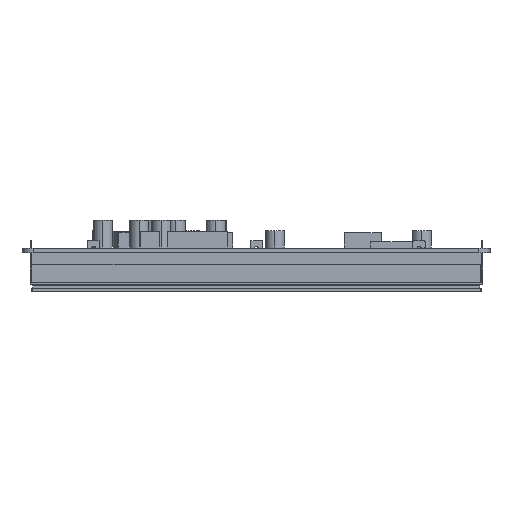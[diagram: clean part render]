
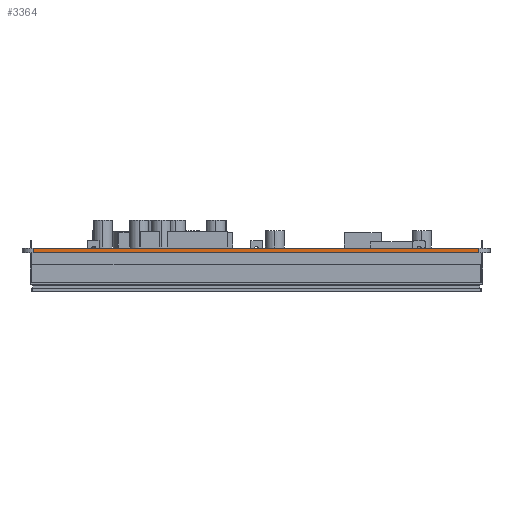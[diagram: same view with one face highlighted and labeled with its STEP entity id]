
A CAD part, left-side view. The second image highlights one B-rep face of the part: STEP entity #3364.
In plain terms, the highlighted planar face has unit normal (-1, 0, 0).
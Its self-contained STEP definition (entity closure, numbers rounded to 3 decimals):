
#110=DIRECTION('',(0.,1.,0.));
#111=VECTOR('',#110,147.701);
#112=CARTESIAN_POINT('',(-0.11,3.834,0.));
#113=LINE('',#112,#111);
#751=DIRECTION('',(0.,1.,0.));
#752=VECTOR('',#751,147.701);
#753=CARTESIAN_POINT('',(-0.11,3.834,-1.6));
#754=LINE('',#753,#752);
#1082=DIRECTION('',(0.,0.,1.));
#1083=VECTOR('',#1082,1.6);
#1084=CARTESIAN_POINT('',(-0.11,151.535,-1.6));
#1085=LINE('',#1084,#1083);
#1086=DIRECTION('',(0.,0.,1.));
#1087=VECTOR('',#1086,1.6);
#1088=CARTESIAN_POINT('',(-0.11,3.834,-1.6));
#1089=LINE('',#1088,#1087);
#1974=CARTESIAN_POINT('',(-0.11,151.535,0.));
#1975=VERTEX_POINT('',#1974);
#1976=CARTESIAN_POINT('',(-0.11,3.834,0.));
#1977=VERTEX_POINT('',#1976);
#2142=CARTESIAN_POINT('',(-0.11,151.535,-1.6));
#2143=VERTEX_POINT('',#2142);
#2144=CARTESIAN_POINT('',(-0.11,3.834,-1.6));
#2145=VERTEX_POINT('',#2144);
#3352=CARTESIAN_POINT('',(-0.11,151.535,0.));
#3353=DIRECTION('',(-1.,0.,0.));
#3354=DIRECTION('',(0.,-1.,0.));
#3355=AXIS2_PLACEMENT_3D('',#3352,#3353,#3354);
#3356=PLANE('',#3355);
#3357=ORIENTED_EDGE('',*,*,#2587,.F.);
#3359=ORIENTED_EDGE('',*,*,#3358,.F.);
#3360=ORIENTED_EDGE('',*,*,#3004,.T.);
#3361=ORIENTED_EDGE('',*,*,#3345,.T.);
#3362=EDGE_LOOP('',(#3357,#3359,#3360,#3361));
#3363=FACE_OUTER_BOUND('',#3362,.F.);
#2587=EDGE_CURVE('',#1977,#1975,#113,.T.);
#3004=EDGE_CURVE('',#2145,#2143,#754,.T.);
#3345=EDGE_CURVE('',#2143,#1975,#1085,.T.);
#3358=EDGE_CURVE('',#2145,#1977,#1089,.T.);
#3364=ADVANCED_FACE('',(#3363),#3356,.T.);
